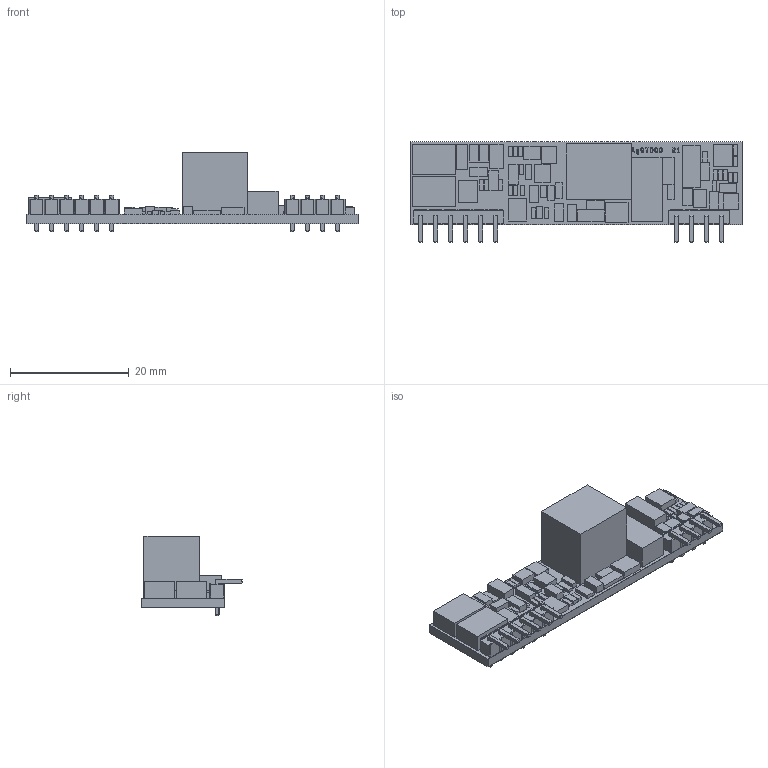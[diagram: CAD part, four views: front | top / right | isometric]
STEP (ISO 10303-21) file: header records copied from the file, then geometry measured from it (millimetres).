
FILE_DESCRIPTION(('FreeCAD Model'),'2;1');
FILE_NAME('Open CASCADE Shape Model','2026-04-21T10:29:26',(''),(''), 'Open CASCADE STEP processor 7.8','FreeCAD','Unknown');
FILE_SCHEMA(('AUTOMOTIVE_DESIGN { 1 0 10303 214 1 1 1 1 }'));
Products named in the file (1): Ag97000_simplified
Bounding box: 56.01 x 17.03 x 13.48 mm (x, y, z)
Volume: 3022.8 mm3; surface area: 7188 mm2
Topology: 67 solids, 83 shells, 2457 faces, 6791 edges, 4346 vertices
Faces by surface type: extrusion 2028, revolution 429
Entity records: 82656 total; most frequent: CARTESIAN_POINT 14208, ORIENTED_EDGE 13352, DIRECTION 12427, VECTOR 10280, LINE 8252, EDGE_CURVE 6699, VERTEX_POINT 4346, FACE_BOUND 2921
